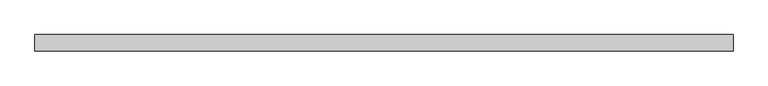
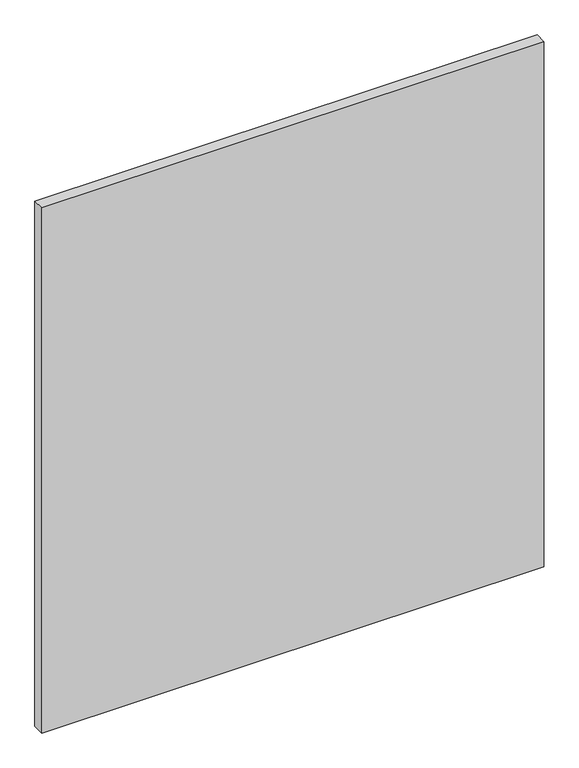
"""IFC4 building model written with IfcOpenShell, lengths in millimetres: plate geometry, Системная панель : С остеклением."""

from ifc_helpers import new_model, si_unit, origin, origin_with_axes, place, context, project, spatial, polyline, outline, extrude, source, transform, mapped, element, save


def plate_2a94339a(model_context):
    return source(origin(), model_context, "Body", "SweptSolid", [
        extrude(outline(polyline([(531.3258605, 24.5), (-531.3258605, 24.5), (-531.3258605, 49.5), (531.3258605, 49.5), (531.3258605, 24.5)])), origin_with_axes(), (0.0, 0.0, 1.0), 1175.0),
    ])


if __name__ == "__main__":
    model = new_model("IFC4")
    model_context = context("Model", 3, world=origin())
    ifc_project = project(units=[si_unit("LENGTHUNIT", "METRE", prefix="MILLI")], contexts=[model_context])
    site = spatial("IfcSite", under=ifc_project)
    building = spatial("IfcBuilding", under=site)
    placement = place(None, origin())
    plate_shape = plate_2a94339a(model_context)
    element("IfcPlate", 1, ObjectType="Системная панель : С остеклением", at=placement, inside=building, context=model_context, shape_type="MappedRepresentation", body=[
        mapped(plate_shape, transform((0.0, 0.0, 0.0), x_axis=(1.0, 0.0, 0.0), y_axis=(0.0, 1.0, 0.0), z_axis=(0.0, 0.0, 1.0))),
    ])
    save(model, "model.ifc")
